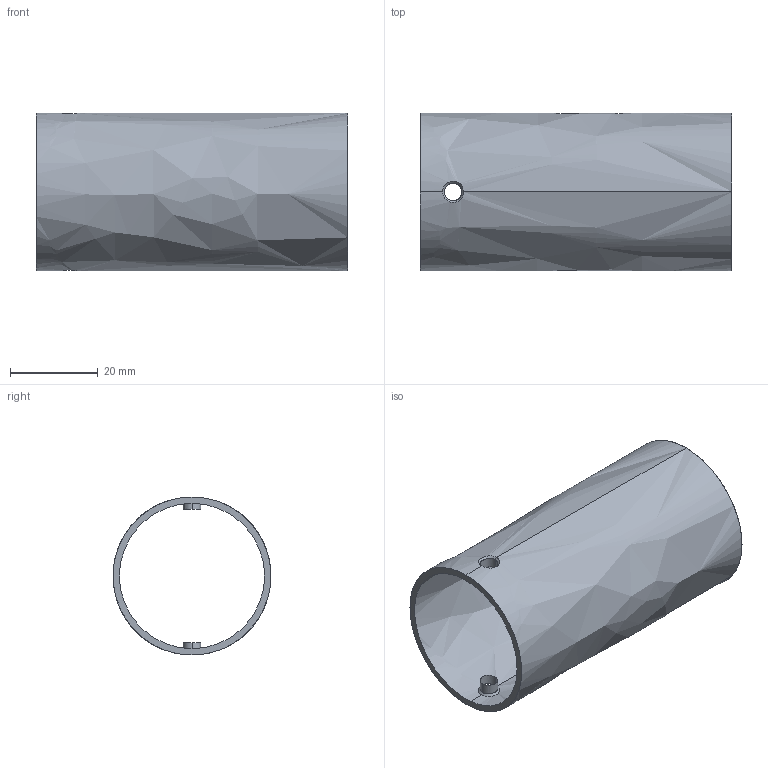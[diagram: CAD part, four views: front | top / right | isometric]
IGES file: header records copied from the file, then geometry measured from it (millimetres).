
Start section: SolidWorks IGES file using analytic representation for surfaces
Global section: file name: \\Kikaku_server01\kikaku\; native system: Rhinoceros ( Feb 22 2008 ); preprocessor: Trout Lake IGES 012 Feb 22 2008; date: 080924.000341; units: millimetre
Bounding box: 71 x 36 x 36 mm (x, y, z)
Surface area: 8394.2 mm2 (no closed solid volume)
Topology: 0 solids, 0 shells, 12 faces, 306 edges, 306 vertices
Faces by surface type: bspline 12
